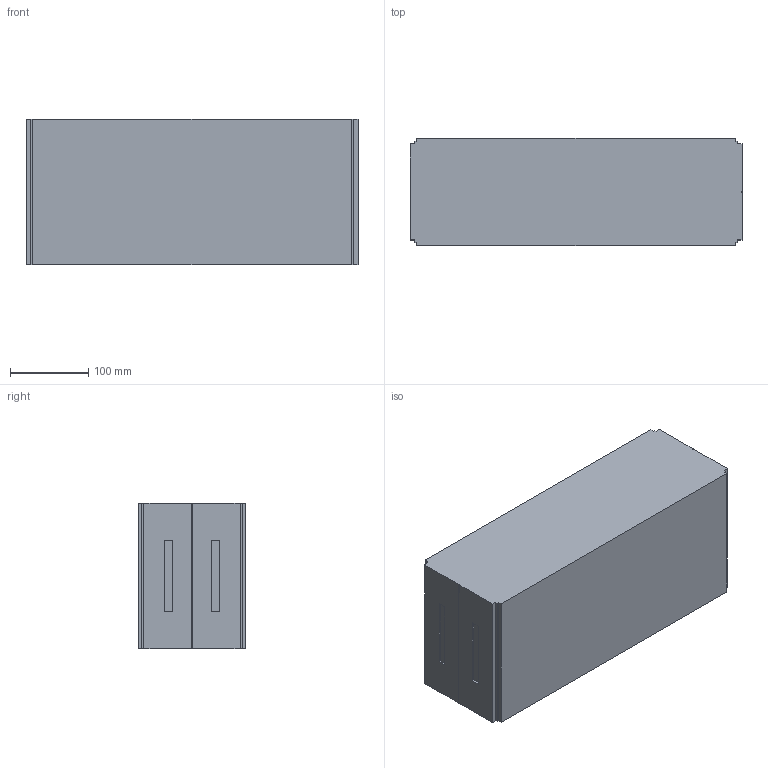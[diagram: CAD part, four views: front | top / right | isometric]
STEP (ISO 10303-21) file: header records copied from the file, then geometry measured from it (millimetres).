
FILE_DESCRIPTION (( 'STEP AP214' ), '1' );
FILE_NAME ('FS-MTC2-150-INOX Kettingmont. eenheid.420 Kettingmont.STEP', '2017-02-08T12:41:21', ( '' ), ( '' ), 'SwSTEP 2.0', 'SolidWorks 2016', '' );
FILE_SCHEMA (( 'AUTOMOTIVE_DESIGN' ));
Length unit declared in the file: millimetre
Products named in the file (1): FS-MTC2-150-INOX Kettingmont. eenheid.420 Kettingmont
Bounding box: 423 x 136.5 x 185 mm (x, y, z)
Volume: 10634047 mm3; surface area: 324840.4 mm2
Topology: 1 solids, 1 shells, 50 faces, 132 edges, 88 vertices
Faces by surface type: plane 50
Entity records: 1550 total; most frequent: CARTESIAN_POINT 271, ORIENTED_EDGE 264, DIRECTION 234, EDGE_CURVE 132, LINE 132, VECTOR 132, VERTEX_POINT 88, EDGE_LOOP 54
